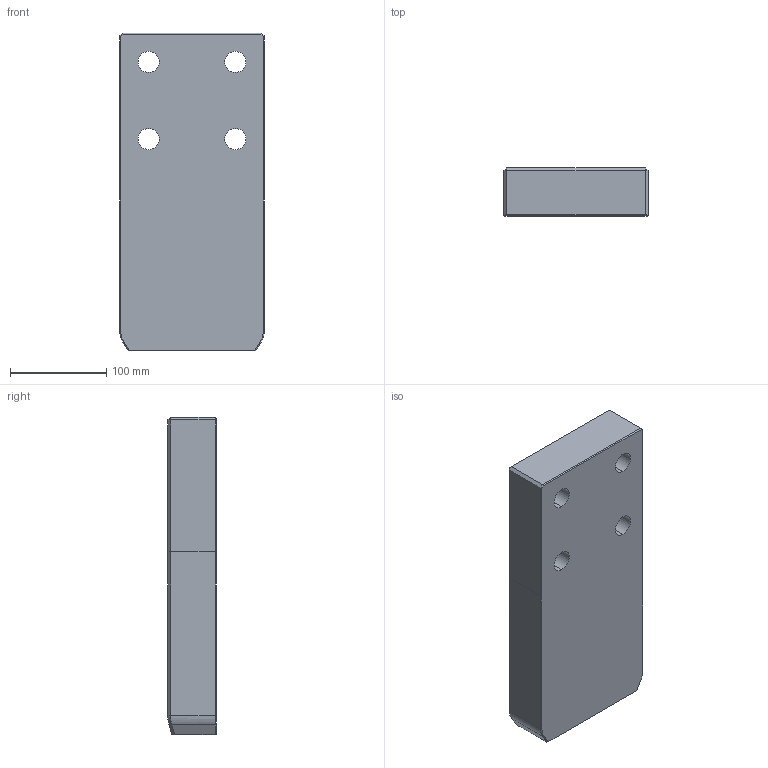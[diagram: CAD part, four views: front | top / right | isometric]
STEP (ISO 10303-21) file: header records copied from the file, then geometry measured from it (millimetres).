
FILE_DESCRIPTION((''),'2;1');
FILE_NAME('','2010-09-08T12:57:50+09:00',('misumi'),(''),'M/STEP i/f 1R2-14','CADmeister v5.1','');
FILE_SCHEMA(('AUTOMOTIVE_DESIGN'));
Length unit declared in the file: millimetre
Products named in the file (1): OGP150-330
Bounding box: 150 x 50 x 330 mm (x, y, z)
Volume: 2380136.1 mm3; surface area: 155349.7 mm2
Topology: 1 solids, 1 shells, 53 faces, 128 edges, 78 vertices
Faces by surface type: plane 32, cylinder 13, bspline 6, cone 2
Entity records: 1903 total; most frequent: CARTESIAN_POINT 598, ORIENTED_EDGE 248, DIRECTION 234, EDGE_CURVE 124, LINE 82, VECTOR 82, AXIS2_PLACEMENT_3D 76, VERTEX_POINT 74
